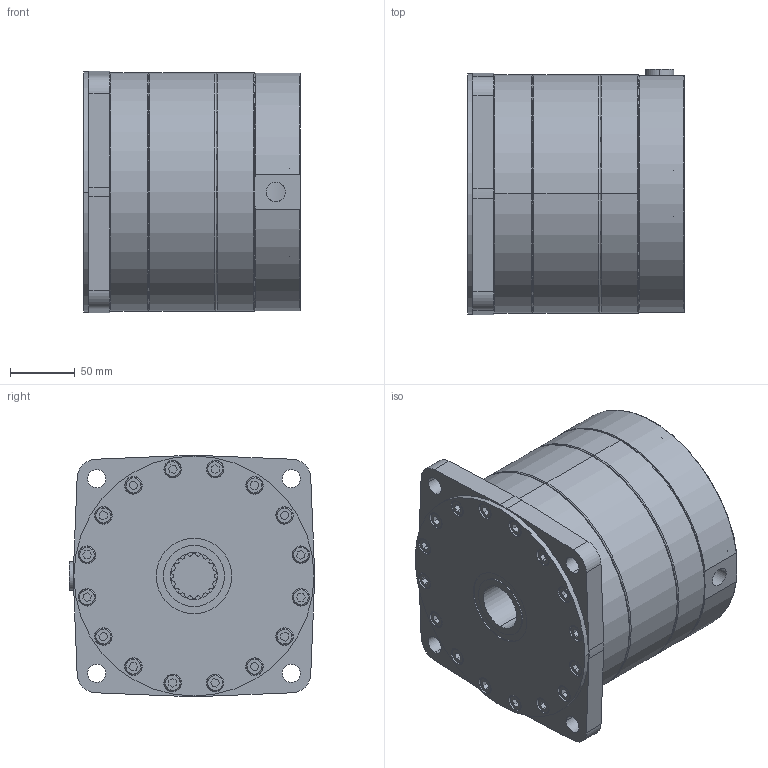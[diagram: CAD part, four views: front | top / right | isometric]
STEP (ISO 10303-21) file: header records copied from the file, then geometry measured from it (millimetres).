
FILE_DESCRIPTION(('Creo Elements/Direct Modeling STEP Export'),'2;1');
FILE_NAME('M25 axial.stp','2017-07-10T14:45:23',(''),(''),'PTC Creo Elements/Direct Modeling STEP processor for AP214 (Solid Model)','PTC Creo Elements/Direct Modeling 19.0C 15-Aug-2015 (C) Parametric Technology GmbH','');
FILE_SCHEMA(('AUTOMOTIVE_DESIGN { 1 0 10303 214 1 1 1 1 }'));
Length unit declared in the file: millimetre
Products named in the file (2): M25
Assembly tree (1 placements, depth 2):
  M25
    M25
Bounding box: 167 x 188.99 x 185.98 mm (x, y, z)
Volume: 4360796.8 mm3; surface area: 215753 mm2
Topology: 1 solids, 1 shells, 910 faces, 2291 edges, 1497 vertices
Faces by surface type: plane 541, cylinder 251, cone 60, extrusion 36, torus 22
Entity records: 30971 total; most frequent: CARTESIAN_POINT 6815, ORIENTED_EDGE 4582, DIRECTION 4142, EDGE_CURVE 2291, VECTOR 1654, LINE 1618, VERTEX_POINT 1497, AXIS2_PLACEMENT_3D 1244
